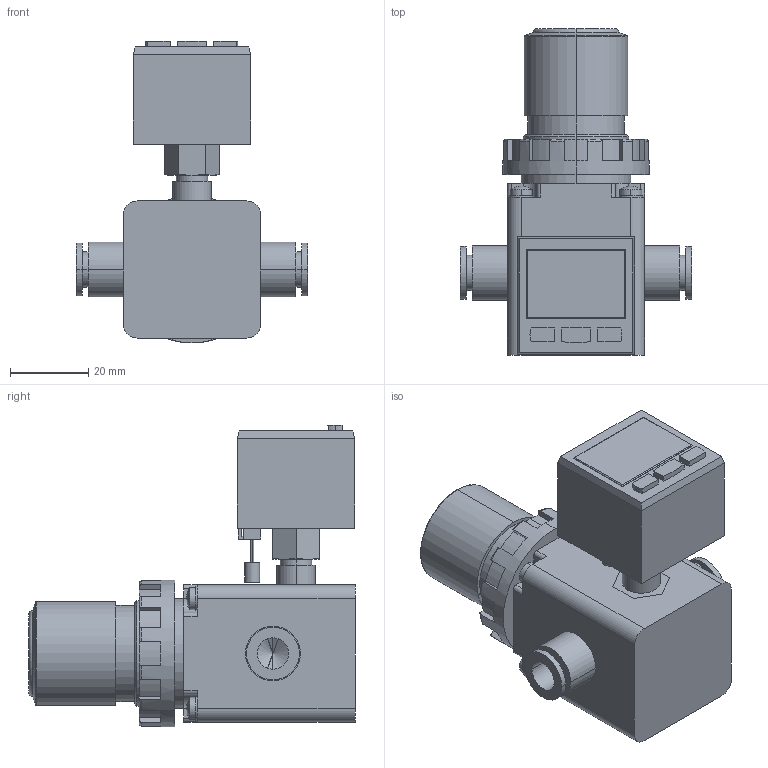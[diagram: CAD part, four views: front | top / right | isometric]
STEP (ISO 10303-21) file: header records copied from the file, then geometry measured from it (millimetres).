
FILE_DESCRIPTION (( 'STEP AP203' ), '1' );
FILE_NAME ('RV100-C08-SCD.STEP', '2022-01-25T19:28:42', ( '' ), ( '' ), 'SwSTEP 2.0', 'SolidWorks 2019', '' );
FILE_SCHEMA (( 'CONFIG_CONTROL_DESIGN' ));
Length unit declared in the file: millimetre
Products named in the file (1): RV100-C08-SCD
Bounding box: 59 x 83.3 x 77.05 mm (x, y, z)
Volume: 101963.2 mm3; surface area: 25170.9 mm2
Topology: 6 solids, 6 shells, 384 faces, 932 edges, 587 vertices
Faces by surface type: plane 174, cylinder 124, cone 58, torus 20, sphere 8
Entity records: 11603 total; most frequent: CARTESIAN_POINT 2342, DIRECTION 2006, ORIENTED_EDGE 1836, EDGE_CURVE 918, AXIS2_PLACEMENT_3D 751, VERTEX_POINT 587, VECTOR 504, LINE 504
